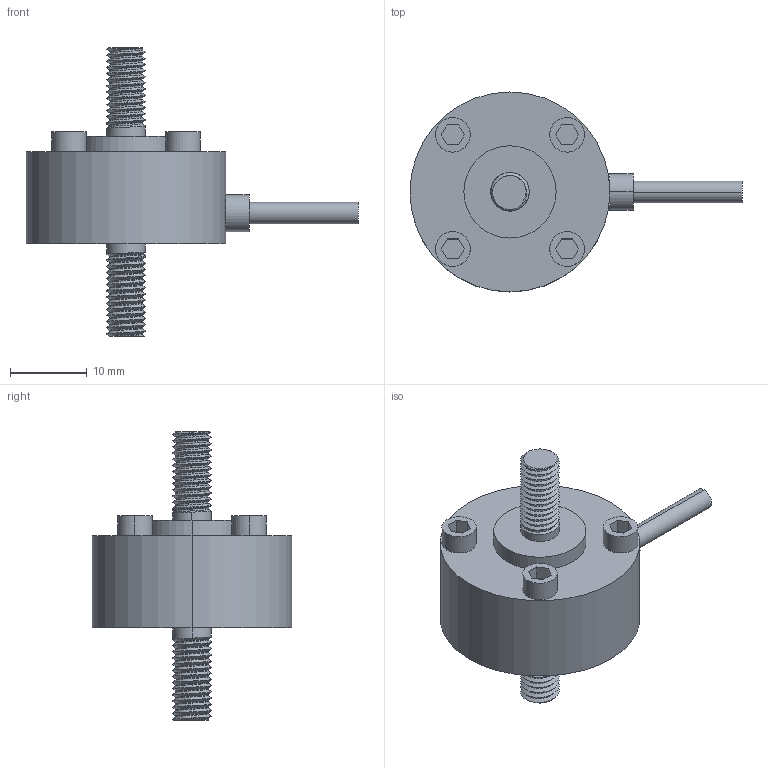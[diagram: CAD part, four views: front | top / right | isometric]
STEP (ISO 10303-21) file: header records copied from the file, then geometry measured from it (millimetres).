
FILE_DESCRIPTION((''),'2;1');
FILE_NAME('14LA_10_50KG_WXT','2023-09-07T',('hzcgq'),(''),'PRO/ENGINEER BY PARAMETRIC TECHNOLOGY CORPORATION, 2015070','PRO/ENGINEER BY PARAMETRIC TECHNOLOGY CORPORATION, 2015070','');
FILE_SCHEMA(('CONFIG_CONTROL_DESIGN'));
Length unit declared in the file: millimetre
Products named in the file (1): 14LA_10_50KG_WXT
Bounding box: 43.17 x 26 x 37.5 mm (x, y, z)
Volume: 7248.6 mm3; surface area: 3013.1 mm2
Topology: 2 solids, 2 shells, 95 faces, 265 edges, 186 vertices
Faces by surface type: plane 40, bspline 30, cylinder 24, cone 1
Entity records: 8775 total; most frequent: CARTESIAN_POINT 6527, ORIENTED_EDGE 530, DIRECTION 326, EDGE_CURVE 265, VERTEX_POINT 186, VECTOR 122, LINE 122, EDGE_LOOP 107
